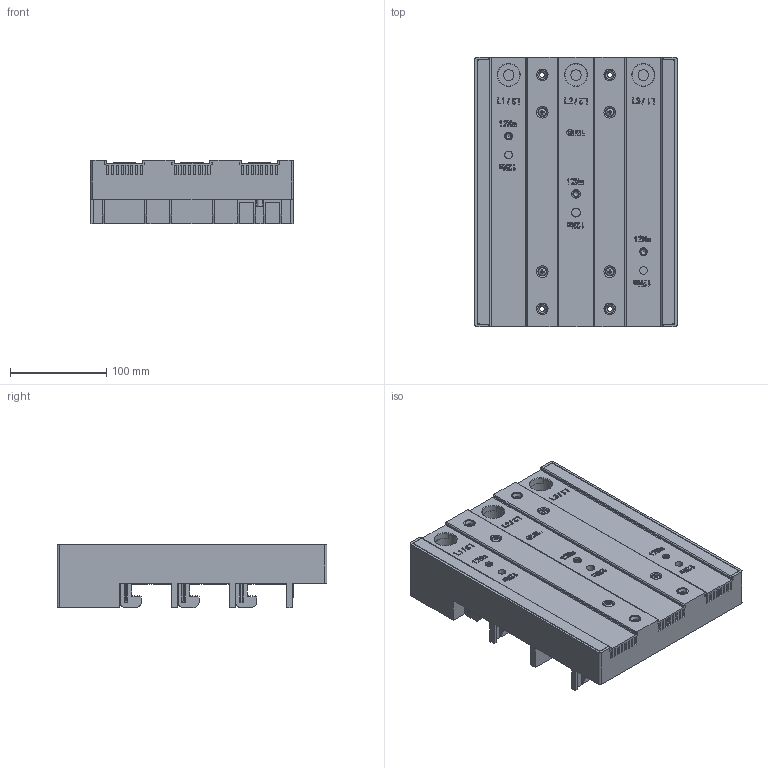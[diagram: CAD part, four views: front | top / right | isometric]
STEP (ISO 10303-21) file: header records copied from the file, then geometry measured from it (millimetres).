
FILE_DESCRIPTION (( 'STEP AP203' ), '1' );
FILE_NAME ('55002.STEP', '2021-08-30T02:50:08', ( '' ), ( '' ), 'SwSTEP 2.0', 'SolidWorks 2017', '' );
FILE_SCHEMA (( 'CONFIG_CONTROL_DESIGN' ));
Length unit declared in the file: millimetre
Products named in the file (2): 55002
Bounding box: 210 x 280 x 65.5 mm (x, y, z)
Volume: 2322801.8 mm3; surface area: 301781.3 mm2
Topology: 1 solids, 52 shells, 2996 faces, 9441 edges, 6247 vertices
Faces by surface type: plane 2301, cylinder 535, bspline 112, cone 34, torus 13, sphere 1
Full cylindrical faces by diameter (mm): 3.2 x3, 3.5 x3, 5.2 x4, 7 x6, 8 x10, 8.4 x3, 9 x3, 10 x4, 11 x6, 11.8 x4, 12 x4, 14 x4, 16 x3, 19 x4, 23 x3, 24 x3
Entity records: 112506 total; most frequent: CARTESIAN_POINT 30759, ORIENTED_EDGE 18528, DIRECTION 15108, EDGE_CURVE 9264, LINE 6324, VECTOR 6324, VERTEX_POINT 6179, AXIS2_PLACEMENT_3D 4392
